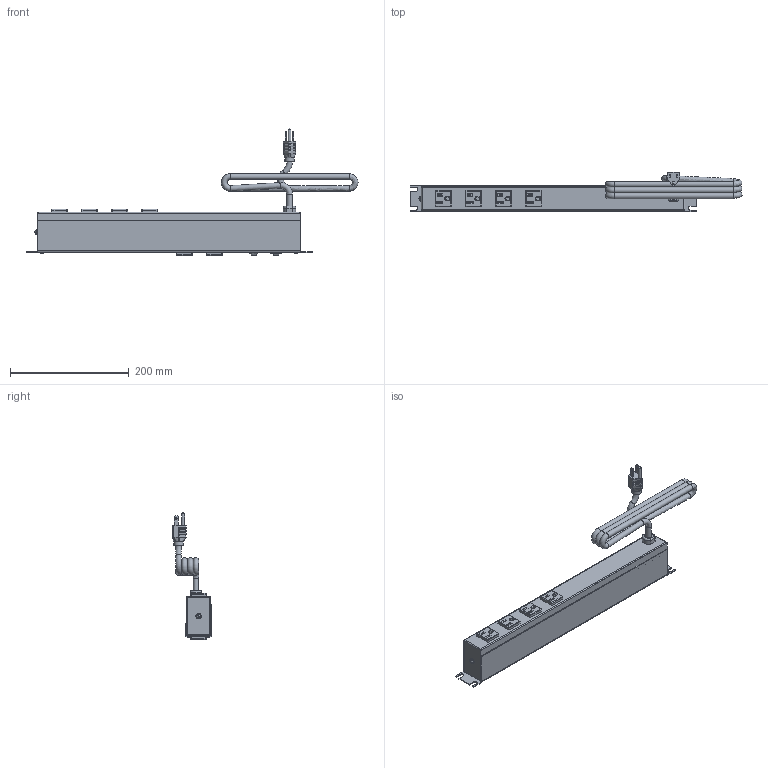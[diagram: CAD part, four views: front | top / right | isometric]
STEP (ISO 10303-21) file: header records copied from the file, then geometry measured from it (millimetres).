
FILE_DESCRIPTION((''),'2;1');
FILE_NAME('E:\Dutton\Manufacturing\drawings\Updated 2009\POWER BARS\1583 X series\STEP''s\1583H6A1BKX.stp','2010-01-08T10:13:56',('tfoster'),(''),'Autodesk Inventor 2010','Autodesk Inventor 2010','');
FILE_SCHEMA(('AUTOMOTIVE_DESIGN { 1 0 10303 214 1 1 1 1 }'));
Products named in the file (12): 1583H6A1BKX; 1583H6 Front plate; 1583H6 Back Plate; #6 - 0.375 Type A screw; toothwasher; round head 1-way 8-32 x 0.5 screw; Power Switch Assembly; Power Switch; Power Switch pt; Reset Switch; Cored 2; Receptacle
Assembly tree (19 placements, depth 3):
  1583H6A1BKX
    1583H6 Front plate
    1583H6 Back Plate
    #6 - 0.375 Type A screw  x4
    toothwasher
    round head 1-way 8-32 x 0.5 screw
    Power Switch Assembly
      Power Switch
      Power Switch pt
    Reset Switch
    Cored 2
    Receptacle  x6
Bounding box: 560.01 x 66.07 x 214.29 mm (x, y, z)
Volume: 349409.1 mm3; surface area: 300852.1 mm2
Topology: 18 solids, 18 shells, 925 faces, 2695 edges, 1809 vertices
Faces by surface type: plane 599, cylinder 171, bspline 87, sphere 30, cone 23, torus 15
Full cylindrical faces by diameter (mm): 1 x2, 1.803 x3, 1.905 x2, 2.286 x1, 2.997 x4, 3 x2, 4.3 x1, 4.775 x1, 4.801 x1, 5.563 x4, 7.849 x1, 9.5 x5, 11 x1, 15.621 x1
Entity records: 22921 total; most frequent: CARTESIAN_POINT 7875, ORIENTED_EDGE 3246, DIRECTION 2720, EDGE_CURVE 1623, VERTEX_POINT 1140, VECTOR 1038, LINE 1038, AXIS2_PLACEMENT_3D 841
